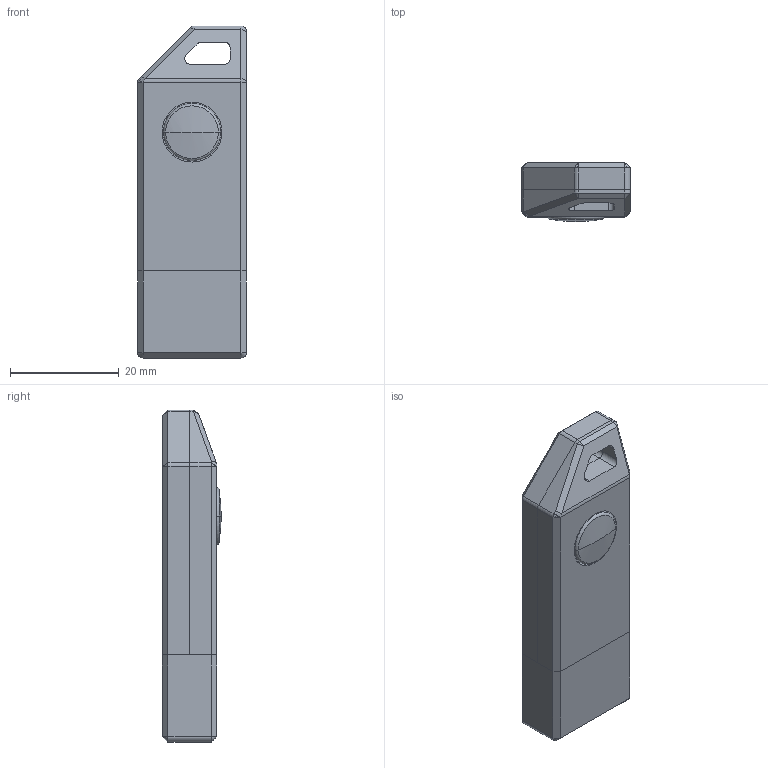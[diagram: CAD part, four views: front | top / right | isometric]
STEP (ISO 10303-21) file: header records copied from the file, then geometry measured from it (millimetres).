
FILE_DESCRIPTION (( 'STEP AP203' ), '1' );
FILE_NAME ('ThinkStick.STEP', '2017-09-16T09:21:13', ( '' ), ( '' ), 'SwSTEP 2.0', 'SolidWorks 2016', '' );
FILE_SCHEMA (( 'CONFIG_CONTROL_DESIGN' ));
Length unit declared in the file: millimetre
Products named in the file (6): ThinkStick_Nipple; ThinkStick_2; USB-01; ThinkStick_1; ThinkStick; ThinkStick_3
Assembly tree (5 placements, depth 2):
  ThinkStick
    ThinkStick_2
    ThinkStick_1
    ThinkStick_3
    ThinkStick_Nipple
    USB-01
Bounding box: 20 x 10.85 x 61 mm (x, y, z)
Volume: 9313.2 mm3; surface area: 9805.1 mm2
Topology: 8 solids, 8 shells, 1179 faces, 3277 edges, 2133 vertices
Faces by surface type: plane 678, cylinder 280, bspline 197, cone 20, torus 2, sphere 2
Entity records: 46400 total; most frequent: CARTESIAN_POINT 16522, ORIENTED_EDGE 6518, DIRECTION 5425, EDGE_CURVE 3259, VECTOR 2285, LINE 2285, VERTEX_POINT 2133, AXIS2_PLACEMENT_3D 1570
